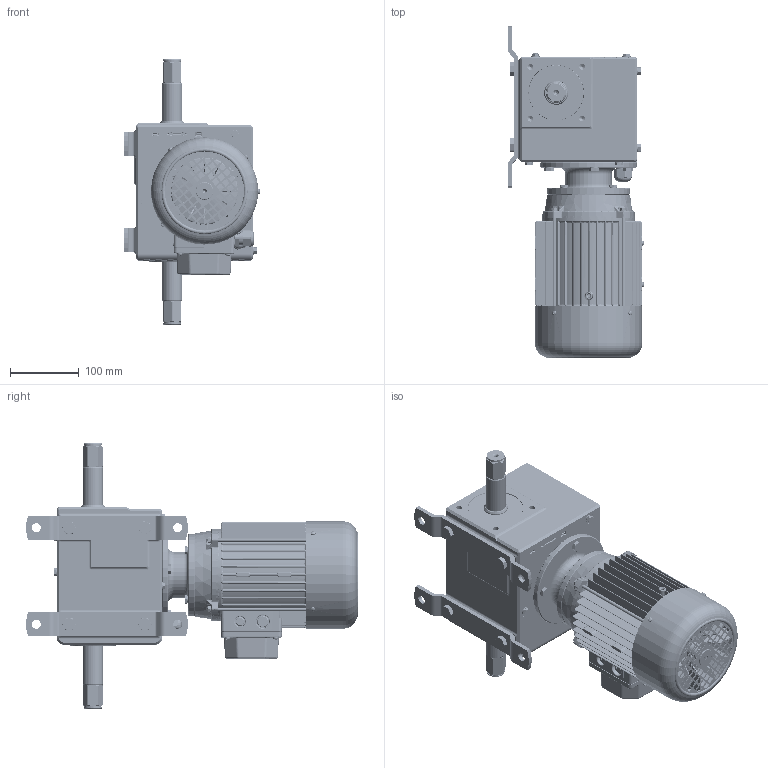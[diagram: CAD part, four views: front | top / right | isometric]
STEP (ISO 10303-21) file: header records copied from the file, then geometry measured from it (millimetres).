
FILE_DESCRIPTION (( 'STEP AP214' ), '1' );
FILE_NAME ('010205610_EWA_14_3D__DE_12214.6006.66.STEP', '2022-10-18T12:52:32', ( '' ), ( '' ), 'SwSTEP 2.0', 'SolidWorks 2022', '' );
FILE_SCHEMA (( 'AUTOMOTIVE_DESIGN' ));
Length unit declared in the file: millimetre
Products named in the file (64): Wälzlager_10001868; Kennzeichnung_10001854; Elektroteil_10028709; Schraube_10028710; Sicherungselement_10001702; 010191515_Normteil_Kaufteil_3D-Modell_DE_10191515; Verbindungselement_10001719; Scheibe_10028541; Schraube_10018291; Wälzlager_10057225; Verbindungselement_10135539_Parallel key A8 x 7 x 22 DIN 6885; Schraube_10028537; Elektroteil_10001640; Sicherungselement_10057200; 010204541_EWA_14_3D__DE_Ohne Inhalt; 010202652__3D__DE_84104.0110.PM01; Deckel_10028707_78x7; Scheibe_10011829; Dichtelement_10000401_Für Werkzeug<Standard>; 010186907__3D-Modell_DE_90000.0001.0239_10186907_DIN EN 24017 - M6 x 20-N; Erdung_ZN00006870_304_Elektrot^Elektroteil_10028550; Dichtelement_10001203; Schraube_10057197; Elektroteil_10001639; Wälzlager_10057207; 010200791_EWA_14_3D__DE_Ohne Inhalt; 010205610_EWA_14_3D__DE_12214.6006.66; Schraube_10014320; Schneckenrad_10001131; Kurbel_10028565; Scheibe_10002061; Wälzlager_10009093; Dichtelement_10064826; Flansch_10006311; Dichtelement_10086807; Schraube_10028863; Schnecke_10055976; Dichtelement_10047460; Welle_10136686; Montageplatte_10000170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
Assembly tree (54 placements, depth 4):
  Sicherungselement_10001702
  Verbindungselement_10001719
  Scheibe_10028541
  Wälzlager_10057225
  Verbindungselement_10135539_Parallel key A8 x 7 x 22 DIN 6885
Bounding box: 197.56 x 481.42 x 385 mm (x, y, z)
Volume: 2847539.2 mm3; surface area: 1215107.1 mm2
Topology: 101 solids, 104 shells, 10053 faces, 24771 edges, 14820 vertices
Faces by surface type: cylinder 2806, plane 2596, bspline 1971, torus 1225, cone 1106, sphere 349
Entity records: 635835 total; most frequent: CARTESIAN_POINT 345013, ORIENTED_EDGE 47524, DIRECTION 39579, EDGE_CURVE 23762, AXIS2_PLACEMENT_3D 15342, VERTEX_POINT 14459, EDGE_LOOP 10479, FACE_OUTER_BOUND 9797
